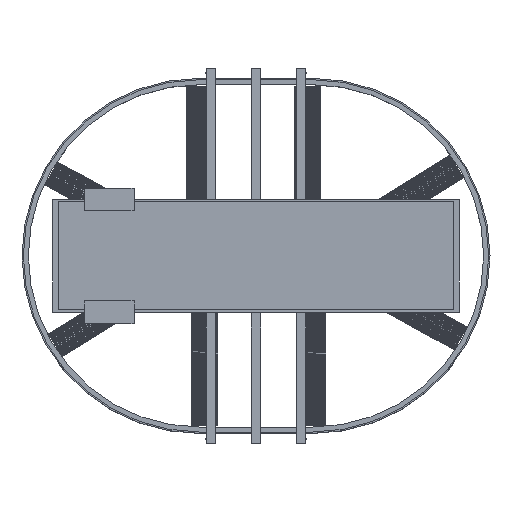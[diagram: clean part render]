
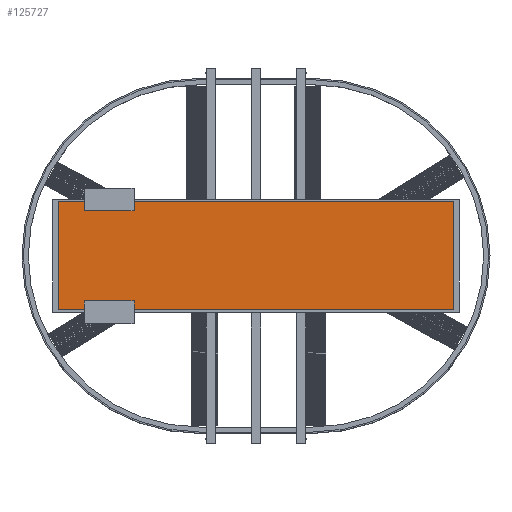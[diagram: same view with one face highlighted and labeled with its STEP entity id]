
A CAD part, top view. The second image highlights one B-rep face of the part: STEP entity #125727.
In plain terms, the highlighted planar face has unit normal (0, 0, 1).
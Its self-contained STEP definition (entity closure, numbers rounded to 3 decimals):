
#125598 = VERTEX_POINT('',#125599);
#125599 = CARTESIAN_POINT('',(-875.,-240.,378.));
#125614 = VERTEX_POINT('',#125615);
#125615 = CARTESIAN_POINT('',(-875.,240.,378.));
#125621 = EDGE_CURVE('',#125598,#125614,#125622,.T.);
#125622 = LINE('',#125623,#125624);
#125623 = CARTESIAN_POINT('',(-875.,-240.,378.));
#125624 = VECTOR('',#125625,1.);
#125625 = DIRECTION('',(0.,1.,0.));
#125638 = VERTEX_POINT('',#125639);
#125639 = CARTESIAN_POINT('',(875.,-240.,378.));
#125654 = VERTEX_POINT('',#125655);
#125655 = CARTESIAN_POINT('',(875.,240.,378.));
#125661 = EDGE_CURVE('',#125638,#125654,#125662,.T.);
#125662 = LINE('',#125663,#125664);
#125663 = CARTESIAN_POINT('',(875.,-240.,378.));
#125664 = VECTOR('',#125665,1.);
#125665 = DIRECTION('',(0.,1.,0.));
#125682 = EDGE_CURVE('',#125598,#125638,#125683,.T.);
#125683 = LINE('',#125684,#125685);
#125684 = CARTESIAN_POINT('',(-875.,-240.,378.));
#125685 = VECTOR('',#125686,1.);
#125686 = DIRECTION('',(1.,0.,0.));
#125704 = EDGE_CURVE('',#125614,#125654,#125705,.T.);
#125705 = LINE('',#125706,#125707);
#125706 = CARTESIAN_POINT('',(-875.,240.,378.));
#125707 = VECTOR('',#125708,1.);
#125708 = DIRECTION('',(1.,0.,0.));
#125727 = ADVANCED_FACE('',(#125728),#125734,.T.);
#125728 = FACE_BOUND('',#125729,.T.);
#125729 = EDGE_LOOP('',(#125730,#125731,#125732,#125733));
#125730 = ORIENTED_EDGE('',*,*,#125621,.F.);
#125731 = ORIENTED_EDGE('',*,*,#125682,.T.);
#125732 = ORIENTED_EDGE('',*,*,#125661,.T.);
#125733 = ORIENTED_EDGE('',*,*,#125704,.F.);
#125734 = PLANE('',#125735);
#125735 = AXIS2_PLACEMENT_3D('',#125736,#125737,#125738);
#125736 = CARTESIAN_POINT('',(-875.,-240.,378.));
#125737 = DIRECTION('',(0.,0.,1.));
#125738 = DIRECTION('',(1.,0.,0.));
